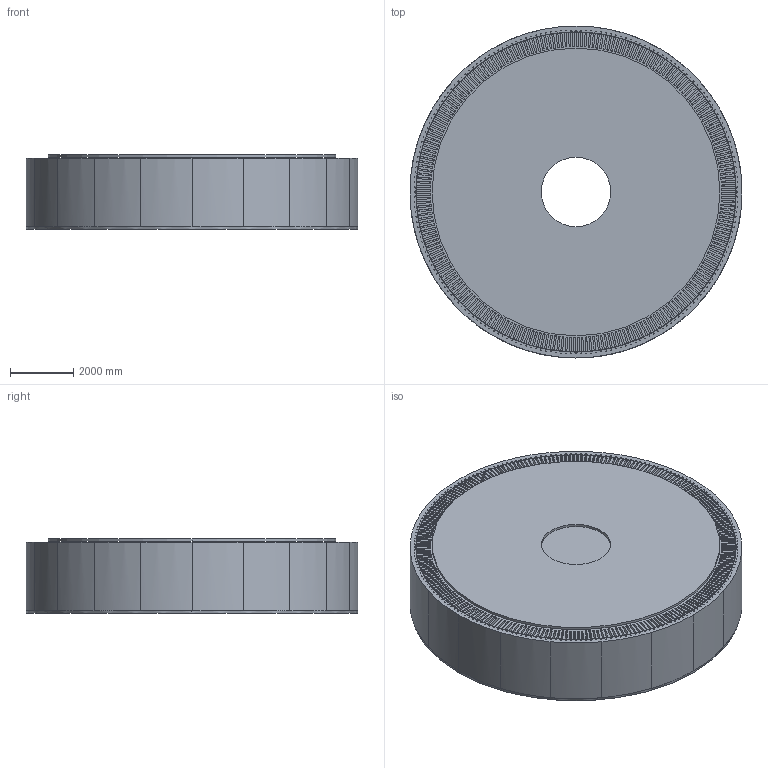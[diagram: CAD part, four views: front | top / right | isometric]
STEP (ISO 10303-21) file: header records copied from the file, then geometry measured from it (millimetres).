
FILE_DESCRIPTION (( 'STEP AP214' ), '1' );
FILE_NAME ('15MW_generator.STEP', '2020-04-24T18:01:27', ( '' ), ( '' ), 'SwSTEP 2.0', 'SolidWorks 2019', '' );
FILE_SCHEMA (( 'AUTOMOTIVE_DESIGN' ));
Length unit declared in the file: metre
Products named in the file (1): 15MW_generator
Bounding box: 10529.27 x 10529.27 x 2356.22 mm (x, y, z)
Volume: 46664411472.3 mm3; surface area: 1118237331.3 mm2
Topology: 2 solids, 2 shells, 3474 faces, 10362 edges, 6896 vertices
Faces by surface type: plane 1866, cylinder 1568, bspline 40
Entity records: 119687 total; most frequent: CARTESIAN_POINT 23379, ORIENTED_EDGE 20724, DIRECTION 20286, EDGE_CURVE 10362, LINE 7144, VECTOR 7144, VERTEX_POINT 6896, AXIS2_PLACEMENT_3D 6571
